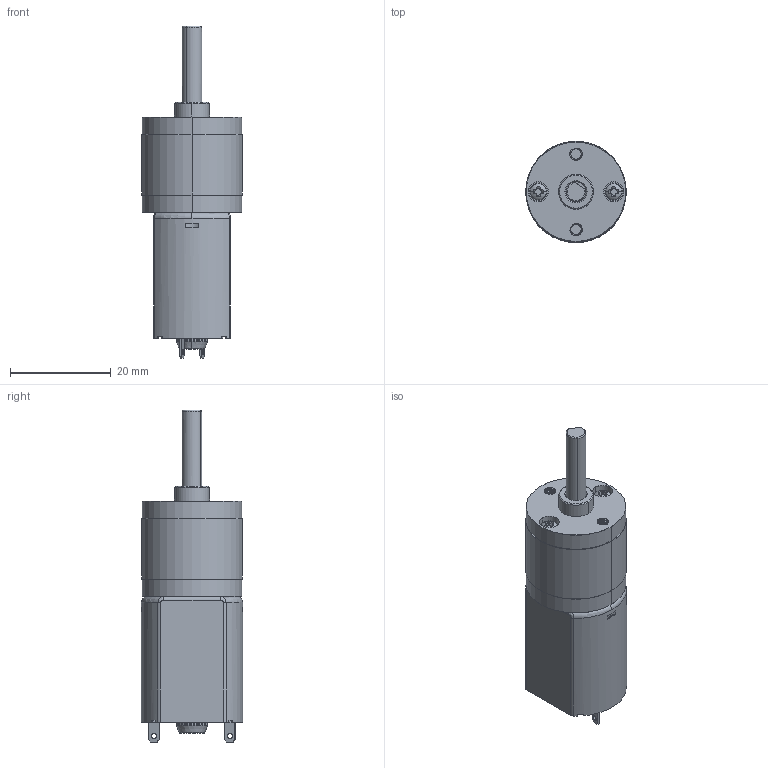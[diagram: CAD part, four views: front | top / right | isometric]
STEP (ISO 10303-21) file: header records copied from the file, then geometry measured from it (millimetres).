
FILE_DESCRIPTION (( 'STEP AP203' ), '1' );
FILE_NAME ('638392.STEP', '2017-10-20T14:49:58', ( '' ), ( '' ), 'SwSTEP 2.0', 'SolidWorks 2016', '' );
FILE_SCHEMA (( 'CONFIG_CONTROL_DESIGN' ));
Products named in the file (1): 638392
Bounding box: 20 x 20.1 x 66 mm (x, y, z)
Volume: 3959.5 mm3; surface area: 7436.2 mm2
Topology: 1 solids, 1 shells, 740 faces, 2078 edges, 1348 vertices
Faces by surface type: cylinder 525, plane 110, torus 53, bspline 26, cone 18, sphere 8
Entity records: 42854 total; most frequent: CARTESIAN_POINT 26185, ORIENTED_EDGE 4144, DIRECTION 2987, EDGE_CURVE 2072, VERTEX_POINT 1348, AXIS2_PLACEMENT_3D 1158, EDGE_LOOP 778, ADVANCED_FACE 740
